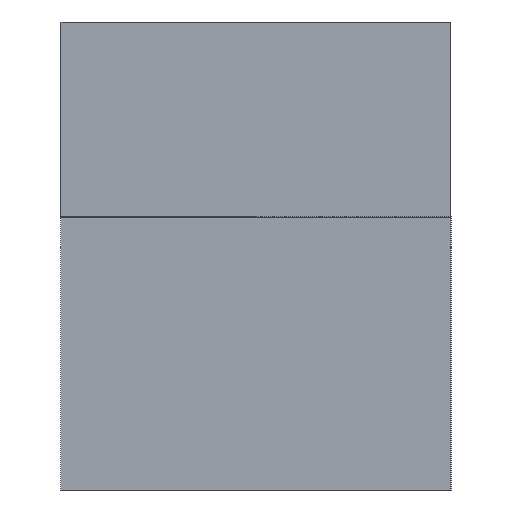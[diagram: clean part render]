
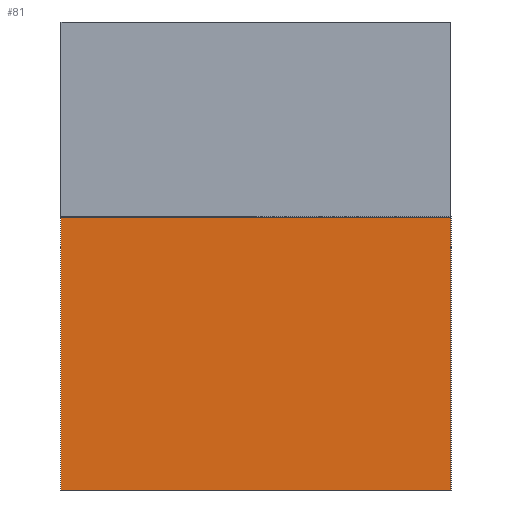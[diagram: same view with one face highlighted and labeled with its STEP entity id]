
A CAD part, left-side view. The second image highlights one B-rep face of the part: STEP entity #81.
In plain terms, the highlighted planar face has unit normal (-1, 0, 0).
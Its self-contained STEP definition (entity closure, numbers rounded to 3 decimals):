
#81=ADVANCED_FACE('',(#118),#119,.T.);
#118=FACE_OUTER_BOUND('',#175,.T.);
#119=PLANE('',#176);
#175=EDGE_LOOP('',(#267,#268,#269,#270));
#176=AXIS2_PLACEMENT_3D('',#271,#272,#273);
#267=ORIENTED_EDGE('',*,*,#419,.T.);
#268=ORIENTED_EDGE('',*,*,#423,.T.);
#269=ORIENTED_EDGE('',*,*,#424,.T.);
#270=ORIENTED_EDGE('',*,*,#425,.F.);
#271=CARTESIAN_POINT('',(0.0,0.0,0.0));
#272=DIRECTION('',(-1.0,0.0,0.0));
#273=DIRECTION('',(0.0,0.0,1.0));
#419=EDGE_CURVE('',#482,#483,#484,.T.);
#423=EDGE_CURVE('',#483,#490,#491,.T.);
#424=EDGE_CURVE('',#490,#492,#493,.T.);
#425=EDGE_CURVE('',#482,#492,#494,.T.);
#482=VERTEX_POINT('',#582);
#483=VERTEX_POINT('',#583);
#484=LINE('',#584,#585);
#490=VERTEX_POINT('',#594);
#491=LINE('',#595,#596);
#492=VERTEX_POINT('',#597);
#493=LINE('',#598,#599);
#494=LINE('',#600,#601);
#582=CARTESIAN_POINT('',(0.0,10.0,1.0));
#583=CARTESIAN_POINT('',(0.0,0.0,1.0));
#584=CARTESIAN_POINT('',(0.0,0.,1.0));
#585=VECTOR('',#694,1.0);
#594=CARTESIAN_POINT('',(0.0,0.0,8.0));
#595=CARTESIAN_POINT('',(0.0,0.0,0.0));
#596=VECTOR('',#698,0.1);
#597=CARTESIAN_POINT('',(0.0,10.0,8.0));
#598=CARTESIAN_POINT('',(0.0,10.0,8.0));
#599=VECTOR('',#699,1.0);
#600=CARTESIAN_POINT('',(0.0,10.0,0.0));
#601=VECTOR('',#700,0.1);
#694=DIRECTION('',(0.0,-1.0,0.0));
#698=DIRECTION('',(0.0,0.0,1.0));
#699=DIRECTION('',(0.0,1.0,0.0));
#700=DIRECTION('',(0.0,0.0,1.0));
